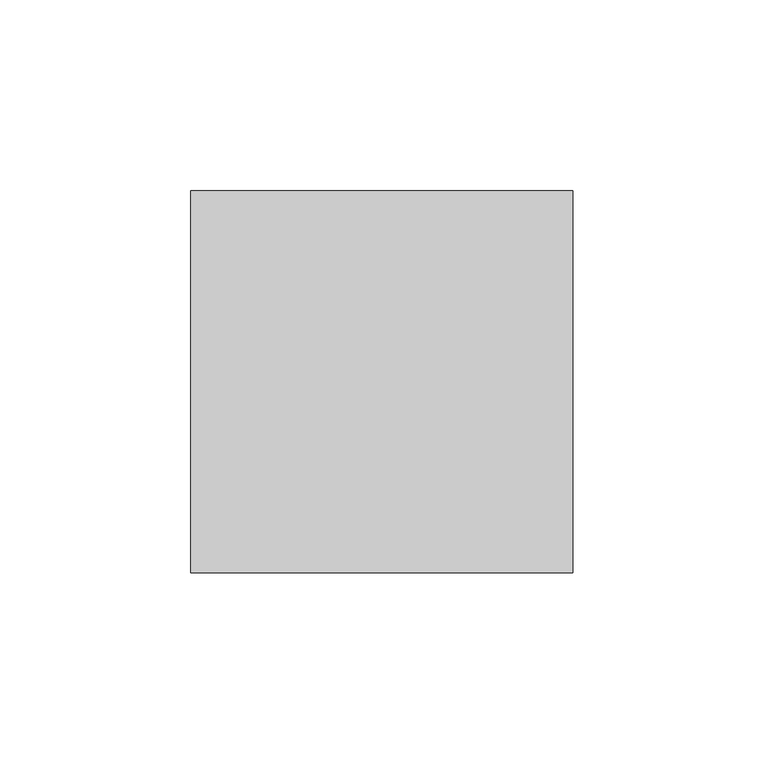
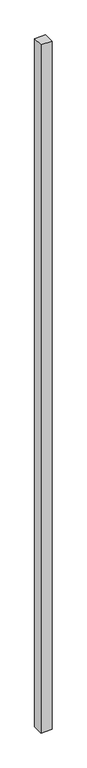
"""IFC4 building model written with IfcOpenShell, lengths in millimetres: proxy geometry, Брус : 100х100."""

from ifc_helpers import new_model, si_unit, origin, origin_with_axes, place, context, project, spatial, polyline, outline, extrude, source, transform, mapped, element, save


def generic_models_2d1f44aa(model_context):
    return source(origin(), model_context, "Body", "SweptSolid", [
        extrude(outline(polyline([(100.0, 0.0), (0.0, 0.0), (0.0, 100.0), (100.0, 100.0), (100.0, 0.0)])), origin_with_axes(), (0.0, 0.0, 1.0), 6610.0),
    ])


if __name__ == "__main__":
    model = new_model("IFC4")
    model_context = context("Model", 3, world=origin())
    ifc_project = project(units=[si_unit("LENGTHUNIT", "METRE", prefix="MILLI")], contexts=[model_context])
    site = spatial("IfcSite", under=ifc_project)
    building = spatial("IfcBuilding", under=site)
    placement = place(None, origin())
    generic_models_shape = generic_models_2d1f44aa(model_context)
    element("IfcBuildingElementProxy", 1, Name="Брус : 100х100", ObjectType="Брус : 100х100", at=placement, inside=building, context=model_context, shape_type="MappedRepresentation", body=[
        mapped(generic_models_shape, transform((0.0, 0.0, 0.0), x_axis=(1.0, 0.0, 0.0), y_axis=(0.0, 1.0, 0.0), z_axis=(0.0, 0.0, 1.0))),
    ])
    save(model, "model.ifc")
